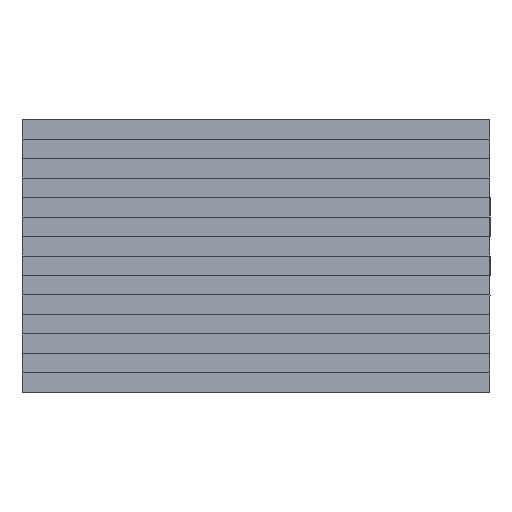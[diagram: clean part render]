
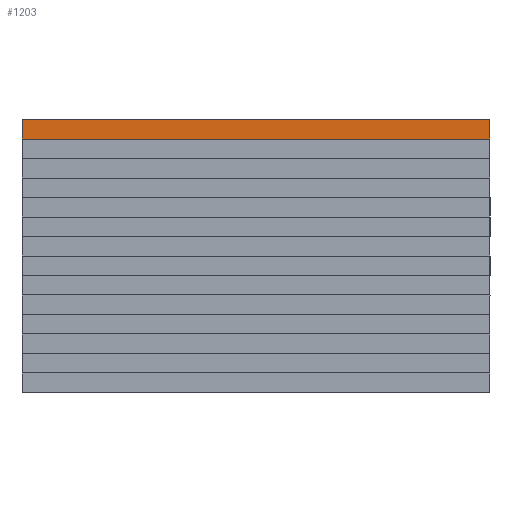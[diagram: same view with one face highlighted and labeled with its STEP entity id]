
A CAD part, left-side view. The second image highlights one B-rep face of the part: STEP entity #1203.
In plain terms, the highlighted planar face has unit normal (-1, 0, 0).
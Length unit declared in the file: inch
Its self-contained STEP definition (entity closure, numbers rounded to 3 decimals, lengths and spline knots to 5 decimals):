
#24 = EDGE_CURVE ( 'NONE', #1598, #1271, #412, .T. ) ;
#29 = VECTOR ( 'NONE', #1016, 39.37008 ) ;
#104 = CARTESIAN_POINT ( 'NONE',  ( 0., 0.47244, 0.01969 ) ) ;
#155 = FACE_OUTER_BOUND ( 'NONE', #939, .T. ) ;
#172 = CARTESIAN_POINT ( 'NONE',  ( 0., 0.47244, 0. ) ) ;
#186 = EDGE_CURVE ( 'NONE', #1080, #1598, #1025, .T. ) ;
#328 = ORIENTED_EDGE ( 'NONE', *, *, #580, .F. ) ;
#412 = LINE ( 'NONE', #1461, #29 ) ;
#580 = EDGE_CURVE ( 'NONE', #1454, #1271, #951, .T. ) ;
#677 = CARTESIAN_POINT ( 'NONE',  ( 0., 0., 0.01969 ) ) ;
#791 = DIRECTION ( 'NONE',  ( 0., 0., -1. ) ) ;
#847 = CARTESIAN_POINT ( 'NONE',  ( 0., 0.47244, 0.01969 ) ) ;
#939 = EDGE_LOOP ( 'NONE', ( #1153, #328, #1354, #1777 ) ) ;
#951 = LINE ( 'NONE', #1825, #1299 ) ;
#999 = AXIS2_PLACEMENT_3D ( 'NONE', #1078, #1103, #1122 ) ;
#1016 = DIRECTION ( 'NONE',  ( 0., -1., 0. ) ) ;
#1025 = LINE ( 'NONE', #104, #1770 ) ;
#1037 = CARTESIAN_POINT ( 'NONE',  ( 0., 0., 0.01969 ) ) ;
#1059 = DIRECTION ( 'NONE',  ( 0., -1., 0. ) ) ;
#1069 = PLANE ( 'NONE',  #999 ) ;
#1078 = CARTESIAN_POINT ( 'NONE',  ( 0., 0., 0.01969 ) ) ;
#1080 = VERTEX_POINT ( 'NONE', #847 ) ;
#1103 = DIRECTION ( 'NONE',  ( 1., 0., 0. ) ) ;
#1122 = DIRECTION ( 'NONE',  ( 0., 0., -1. ) ) ;
#1123 = DIRECTION ( 'NONE',  ( 0., 0., -1. ) ) ;
#1153 = ORIENTED_EDGE ( 'NONE', *, *, #24, .T. ) ;
#1198 = EDGE_CURVE ( 'NONE', #1080, #1454, #1380, .T. ) ;
#1203 = ADVANCED_FACE ( 'NONE', ( #155 ), #1069, .F. ) ;
#1271 = VERTEX_POINT ( 'NONE', #1443 ) ;
#1299 = VECTOR ( 'NONE', #791, 39.37008 ) ;
#1354 = ORIENTED_EDGE ( 'NONE', *, *, #1198, .F. ) ;
#1380 = LINE ( 'NONE', #1037, #1733 ) ;
#1443 = CARTESIAN_POINT ( 'NONE',  ( 0., 0., 0. ) ) ;
#1454 = VERTEX_POINT ( 'NONE', #677 ) ;
#1461 = CARTESIAN_POINT ( 'NONE',  ( 0., 0., 0. ) ) ;
#1598 = VERTEX_POINT ( 'NONE', #172 ) ;
#1733 = VECTOR ( 'NONE', #1059, 39.37008 ) ;
#1770 = VECTOR ( 'NONE', #1123, 39.37008 ) ;
#1777 = ORIENTED_EDGE ( 'NONE', *, *, #186, .T. ) ;
#1825 = CARTESIAN_POINT ( 'NONE',  ( 0., 0., 0.01969 ) ) ;
